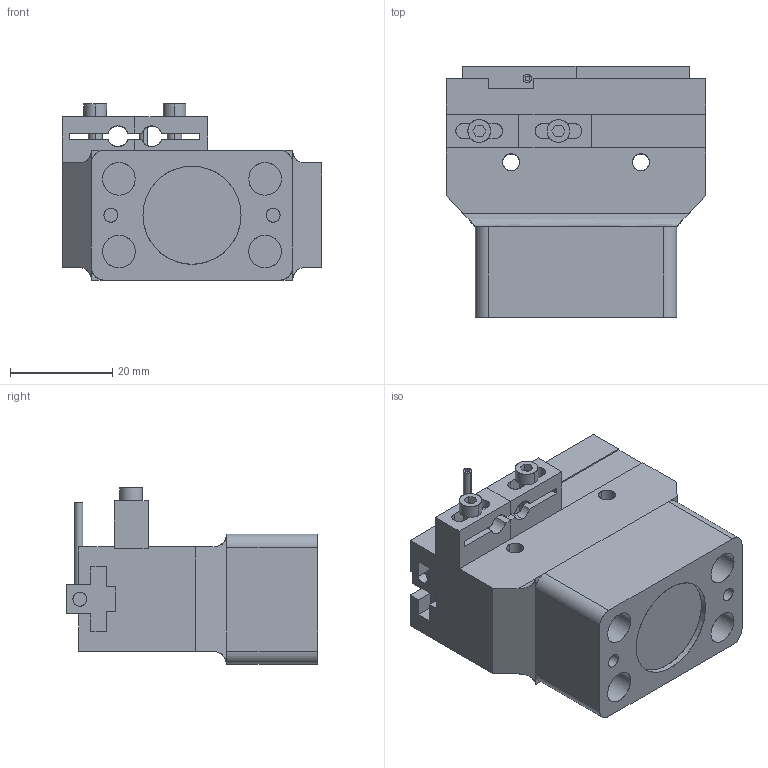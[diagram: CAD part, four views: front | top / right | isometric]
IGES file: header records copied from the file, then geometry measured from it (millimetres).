
Start section: SolidWorks IGES file using analytic representation for surfaces
Global section: file name: C:\Users\jmkuhnes\Pictures\PERSONAL\AGPT\AGPT-500\AGPT-500 CLOSED in IN.IGS; native system: SolidWorks 2013; preprocessor: SolidWorks 2013; author: jmkuhnes; date: 141031.145321; units: inch
Bounding box: 50.8 x 49.12 x 34.48 mm (x, y, z)
Surface area: 16011 mm2 (no closed solid volume)
Topology: 0 solids, 0 shells, 242 faces, 3264 edges, 3264 vertices
Faces by surface type: bspline 158, revolution 84
